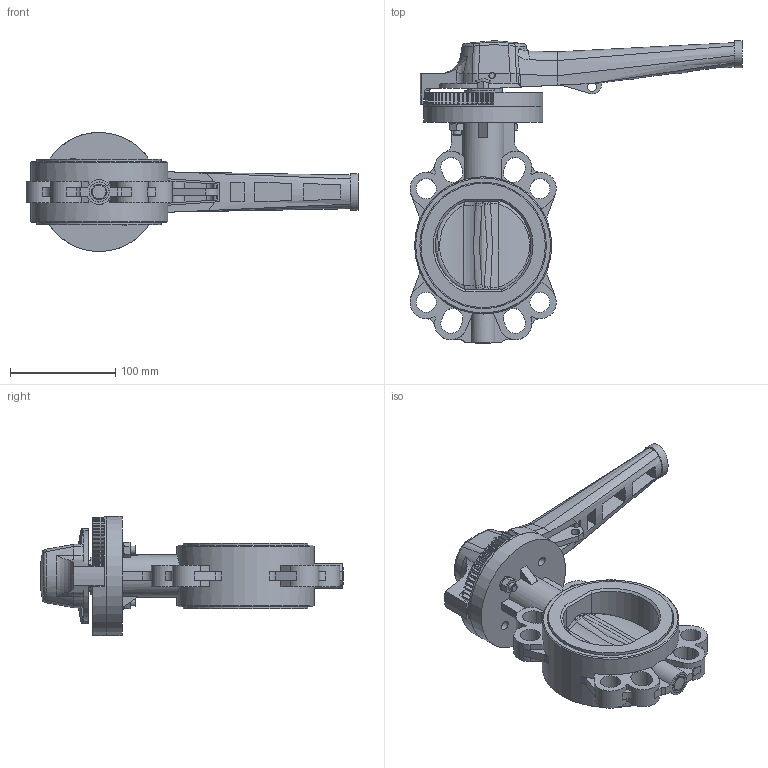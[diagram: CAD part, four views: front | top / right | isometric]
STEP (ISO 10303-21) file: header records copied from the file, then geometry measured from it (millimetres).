
FILE_DESCRIPTION(/* description */ ('','CAx-IF Rec.Pracs.---Representation and Presentation of Product Manufacturing Information (PMI)---3.8---2014-02-18'),/* implementation_level */ '2;1');
FILE_NAME(/* name */ 'C:\Users\POLYPIPE\Desktop\DATASET INVENTOR\LIBRERIA EFFAST\3D_VALVOLE\3D_VALVOLE A FARFALLA PRO FLOW\FDRPFH\3D_FDRPFH0900.stp',/* time_stamp */ '2018-04-20T15:54:53+02:00',/* author */ ('POLYPIPE'),/* organization */ ('Polypipe Italia s.r.l.'),/* preprocessor_version */ 'ST-DEVELOPER v16.1',/* originating_system */ 'Autodesk Inventor 2016',/* authorisation */ '');
FILE_SCHEMA (('AP242_MANAGED_MODEL_BASED_3D_ENGINEERING_MIM_LF { 1 0 10303 442 1 1 4 }'));
Length unit declared in the file: millimetre
Products named in the file (13): 3D_FxxFCO0900 (4_2); 3D_FDRGCO090x; FDRCAP0750 - 1_0; 3D_FDRDHF0900 (2_1); 3D_FDRFSH0750 (6_0); 3D_FDRFHx0750 (5_0); 3D_FDRFRP0750 (4_0); ISO 8734 - 6 x 60 - AISO (2); UNI 5588 - M8 - 1,25; ISO 4017 - M8 x 35 - ISO; UNI 6592 - 8,4 x 14; 3D_FDRAST090x (4_3); 3D_Pro Flow 90
Assembly tree (15 placements, depth 2):
  3D_Pro Flow 90
    3D_FxxFCO0900 (4_2)
    3D_FDRGCO090x
    FDRCAP0750 - 1_0
    3D_FDRDHF0900 (2_1)
    3D_FDRFSH0750 (6_0)
    3D_FDRFHx0750 (5_0)
    3D_FDRFRP0750 (4_0)
    ISO 8734 - 6 x 60 - AISO (2)
    UNI 5588 - M8 - 1,25  x2
    ISO 4017 - M8 x 35 - ISO  x2
    UNI 6592 - 8,4 x 14  x2
    3D_FDRAST090x (4_3)
Bounding box: 314.86 x 287.21 x 113 mm (x, y, z)
Volume: 1245540.8 mm3; surface area: 308084.5 mm2
Topology: 15 solids, 15 shells, 812 faces, 2088 edges, 1312 vertices
Faces by surface type: plane 354, cylinder 239, bspline 133, cone 60, torus 23, sphere 3
Full cylindrical faces by diameter (mm): 6 x4, 6.647 x2, 8 x2, 8.4 x2, 8.5 x1, 9 x6, 10 x1, 10.5 x1, 11.63 x2, 12 x1, 12.6 x1, 14 x2, 15 x1, 18 x2, 19 x6, 20.5 x1, 21.5 x2, 27.6 x1, 29 x2, 29.2 x1, 36 x1, 101.6 x1, 102 x1, 110 x2, 113 x2, 118 x2, 120 x2, 130 x1
Entity records: 28279 total; most frequent: CARTESIAN_POINT 10158, ORIENTED_EDGE 3788, DIRECTION 3502, EDGE_CURVE 1894, AXIS2_PLACEMENT_3D 1327, VERTEX_POINT 1238, EDGE_LOOP 906, LINE 848
